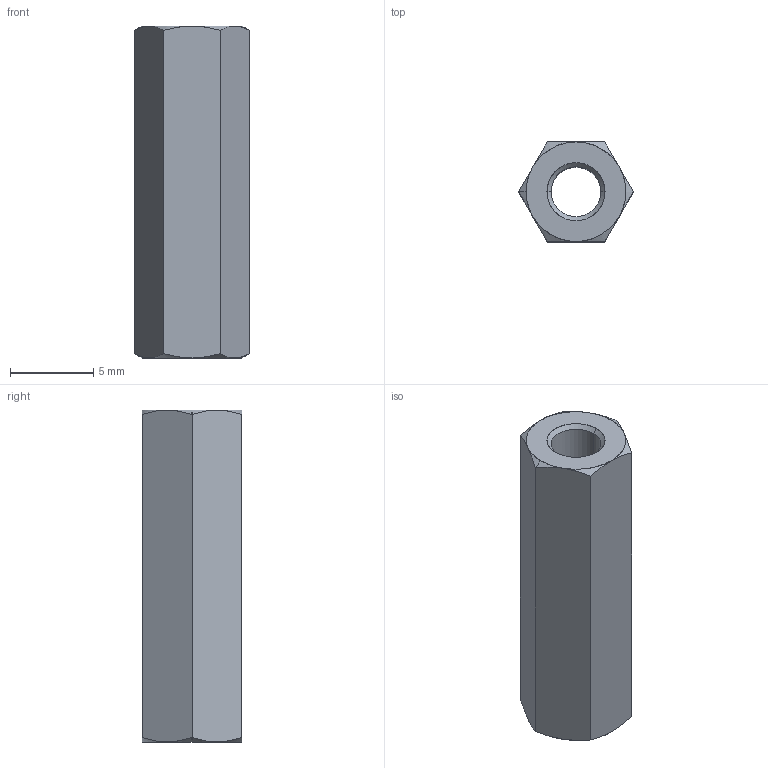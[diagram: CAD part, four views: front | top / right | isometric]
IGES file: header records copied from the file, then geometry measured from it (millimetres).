
Start section: SolidWorks IGES file using analytic representation for surfaces
Global section: file name: C:\Users\ianosborn\Desktop\N0503.NP_v2\N0503.NP_v2_20250227_IGES\N0503.030-020-NP.igs; native system: SolidWorks 2019; preprocessor: SolidWorks 2019; author: IanOsborn; date: 250227.144131; units: millimetre
Bounding box: 6.93 x 6 x 20 mm (x, y, z)
Surface area: 646.9 mm2 (no closed solid volume)
Topology: 0 solids, 0 shells, 28 faces, 286 edges, 286 vertices
Faces by surface type: revolution 20, bspline 8
